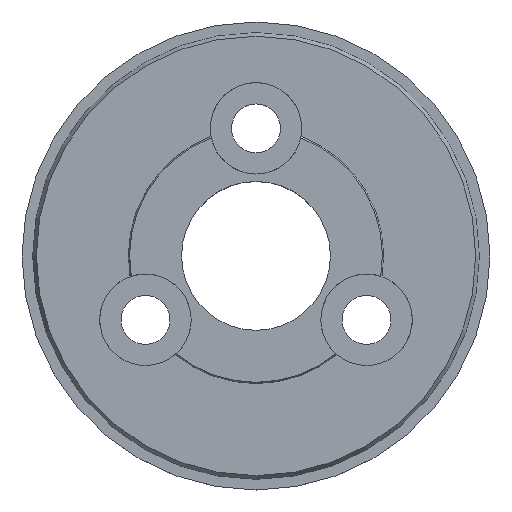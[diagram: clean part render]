
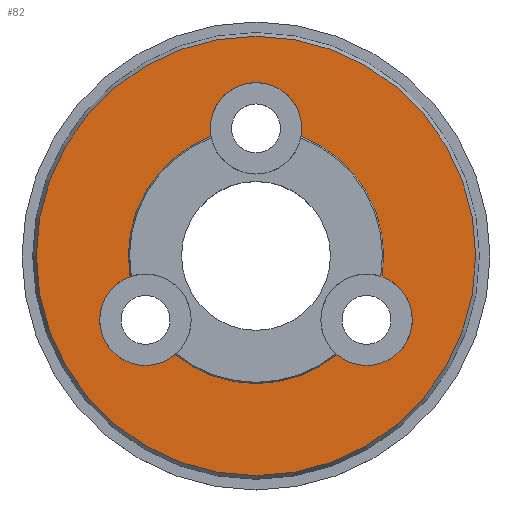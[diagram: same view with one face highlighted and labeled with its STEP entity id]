
A CAD part, top view. The second image highlights one B-rep face of the part: STEP entity #82.
In plain terms, the highlighted planar face has unit normal (0, 0, 1).
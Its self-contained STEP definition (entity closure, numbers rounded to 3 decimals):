
#82=ADVANCED_FACE('',(#123,#124),#107,.T.);
#107=PLANE('',#456);
#123=FACE_BOUND('',#172,.T.);
#124=FACE_BOUND('',#173,.T.);
#172=EDGE_LOOP('',(#231,#232,#233,#234,#235,#236));
#173=EDGE_LOOP('',(#237));
#231=ORIENTED_EDGE('',*,*,#365,.F.);
#232=ORIENTED_EDGE('',*,*,#357,.T.);
#233=ORIENTED_EDGE('',*,*,#366,.F.);
#234=ORIENTED_EDGE('',*,*,#361,.T.);
#235=ORIENTED_EDGE('',*,*,#367,.F.);
#236=ORIENTED_EDGE('',*,*,#368,.T.);
#237=ORIENTED_EDGE('',*,*,#369,.T.);
#316=VERTEX_POINT('',#648);
#318=VERTEX_POINT('',#652);
#320=VERTEX_POINT('',#657);
#322=VERTEX_POINT('',#661);
#326=VERTEX_POINT('',#673);
#327=VERTEX_POINT('',#676);
#328=VERTEX_POINT('',#679);
#357=EDGE_CURVE('',#316,#318,#403,.T.);
#361=EDGE_CURVE('',#320,#322,#405,.T.);
#365=EDGE_CURVE('',#316,#326,#409,.T.);
#366=EDGE_CURVE('',#320,#318,#410,.T.);
#367=EDGE_CURVE('',#327,#322,#411,.T.);
#368=EDGE_CURVE('',#327,#326,#412,.T.);
#369=EDGE_CURVE('',#328,#328,#413,.T.);
#403=CIRCLE('',#441,6.);
#405=CIRCLE('',#444,6.);
#409=CIRCLE('',#451,2.15);
#410=CIRCLE('',#452,2.15);
#411=CIRCLE('',#453,2.15);
#412=CIRCLE('',#454,6.);
#413=CIRCLE('',#455,10.327);
#441=AXIS2_PLACEMENT_3D('',#653,#516,#517);
#444=AXIS2_PLACEMENT_3D('',#662,#524,#525);
#451=AXIS2_PLACEMENT_3D('',#672,#538,#539);
#452=AXIS2_PLACEMENT_3D('',#674,#540,#541);
#453=AXIS2_PLACEMENT_3D('',#675,#542,#543);
#454=AXIS2_PLACEMENT_3D('',#677,#544,#545);
#455=AXIS2_PLACEMENT_3D('',#678,#546,#547);
#456=AXIS2_PLACEMENT_3D('',#680,#548,#549);
#516=DIRECTION('',(0.,0.,-1.));
#517=DIRECTION('',(1.,0.,0.));
#524=DIRECTION('',(0.,0.,-1.));
#525=DIRECTION('',(1.,0.,0.));
#538=DIRECTION('',(0.,0.,1.));
#539=DIRECTION('',(1.,0.,0.));
#540=DIRECTION('',(0.,0.,1.));
#541=DIRECTION('',(1.,0.,0.));
#542=DIRECTION('',(0.,0.,1.));
#543=DIRECTION('',(1.,0.,0.));
#544=DIRECTION('',(0.,0.,-1.));
#545=DIRECTION('',(1.,0.,0.));
#546=DIRECTION('',(0.,0.,1.));
#547=DIRECTION('',(1.,0.,0.));
#548=DIRECTION('',(0.,0.,1.));
#549=DIRECTION('',(1.,0.,0.));
#648=CARTESIAN_POINT('',(3.805,-4.639,2.8));
#652=CARTESIAN_POINT('',(-3.805,-4.639,2.8));
#653=CARTESIAN_POINT('',(0.,0.,2.8));
#657=CARTESIAN_POINT('',(-5.92,-0.976,2.8));
#661=CARTESIAN_POINT('',(-2.115,5.615,2.8));
#662=CARTESIAN_POINT('',(0.,0.,2.8));
#672=CARTESIAN_POINT('',(5.196,-3.,2.8));
#673=CARTESIAN_POINT('',(5.92,-0.976,2.8));
#674=CARTESIAN_POINT('',(-5.196,-3.,2.8));
#675=CARTESIAN_POINT('',(0.,6.,2.8));
#676=CARTESIAN_POINT('',(2.115,5.615,2.8));
#677=CARTESIAN_POINT('',(0.,0.,2.8));
#678=CARTESIAN_POINT('',(0.,0.,2.8));
#679=CARTESIAN_POINT('',(10.327,0.,2.8));
#680=CARTESIAN_POINT('',(0.,0.,2.8));
